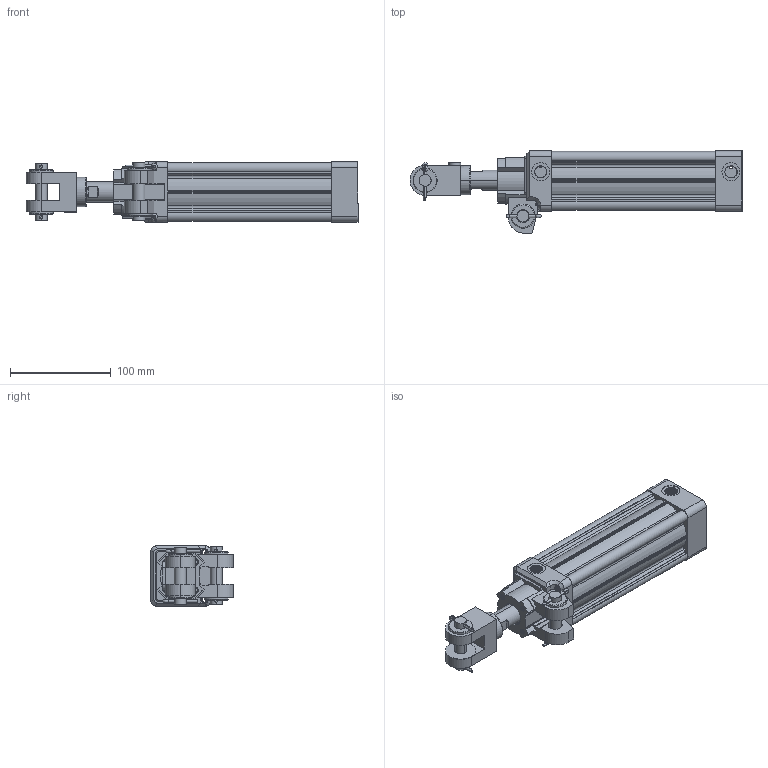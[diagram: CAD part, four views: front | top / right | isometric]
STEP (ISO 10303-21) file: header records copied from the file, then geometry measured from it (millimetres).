
FILE_DESCRIPTION(('CATIA V5 STEP Exchange'),'2;1');
FILE_NAME('D:\stp file for catalog\PNCCA\pncca 50\pncca 50-20-125.stp','2015-05-04T04:30:37+00:00',('none'),('none'),'Version 5-6 Release 2012','CATIA V5 STEP AP203','none');
FILE_SCHEMA(('CONFIG_CONTROL_DESIGN'));
Length unit declared in the file: millimetre
Products named in the file (3): pncca 50-20-125; PNCCA 50-20-50-01; PNCCA 50-20-50-02
Assembly tree (14 placements, depth 3):
  pncca 50-20-125
    PNCCA 50-20-50-01
      #66  x2
      #677
      #15023
      #39524
      #39784
      #40044
      #43520
    PNCCA 50-20-50-02
      #43882
      #46419
      #66  x2
Bounding box: 330 x 82 x 60 mm (x, y, z)
Volume: 475473.8 mm3; surface area: 193306.3 mm2
Topology: 13 solids, 13 shells, 1550 faces, 3994 edges, 2527 vertices
Faces by surface type: cone 587, cylinder 580, plane 341, torus 34, bspline 8
Entity records: 46761 total; most frequent: CARTESIAN_POINT 12296, ORIENTED_EDGE 7776, DIRECTION 5729, EDGE_CURVE 3888, AXIS2_PLACEMENT_3D 2855, VERTEX_POINT 2455, VECTOR 1682, LINE 1682
